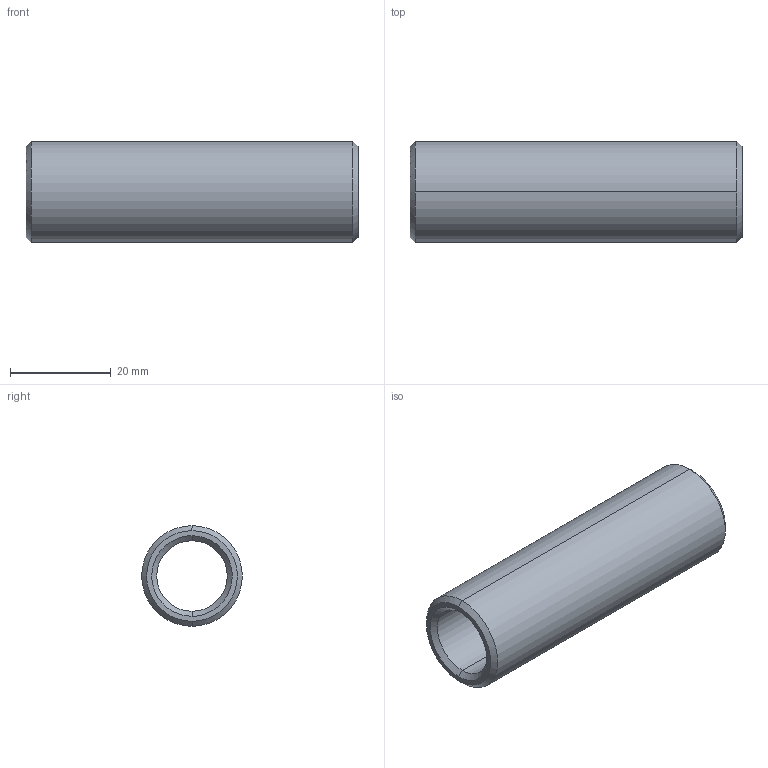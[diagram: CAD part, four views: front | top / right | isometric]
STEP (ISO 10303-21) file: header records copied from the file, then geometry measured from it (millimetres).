
FILE_DESCRIPTION(('CATIA V5 STEP Exchange'),'2;1');
FILE_NAME('C:\Users\Utente\Desktop\IO LAVORO\3D X SITO CF\X SITO\PLASTICA\352\352-14X66.stp','2021-04-10T09:10:40+00:00',('none'),('none'),'CATIA Version 5 Release 20 GA (IN-10)','CATIA V5 STEP AP203','none');
FILE_SCHEMA(('CONFIG_CONTROL_DESIGN'));
Length unit declared in the file: millimetre
Products named in the file (1): 352-14X66
Bounding box: 66 x 20 x 20 mm (x, y, z)
Volume: 10481.1 mm3; surface area: 7251.1 mm2
Topology: 1 solids, 1 shells, 14 faces, 44 edges, 32 vertices
Faces by surface type: cone 6, cylinder 4, plane 2, torus 2
Entity records: 634 total; most frequent: CARTESIAN_POINT 203, ORIENTED_EDGE 88, DIRECTION 64, EDGE_CURVE 44, AXIS2_PLACEMENT_3D 41, VERTEX_POINT 32, CIRCLE 26, EDGE_LOOP 16
